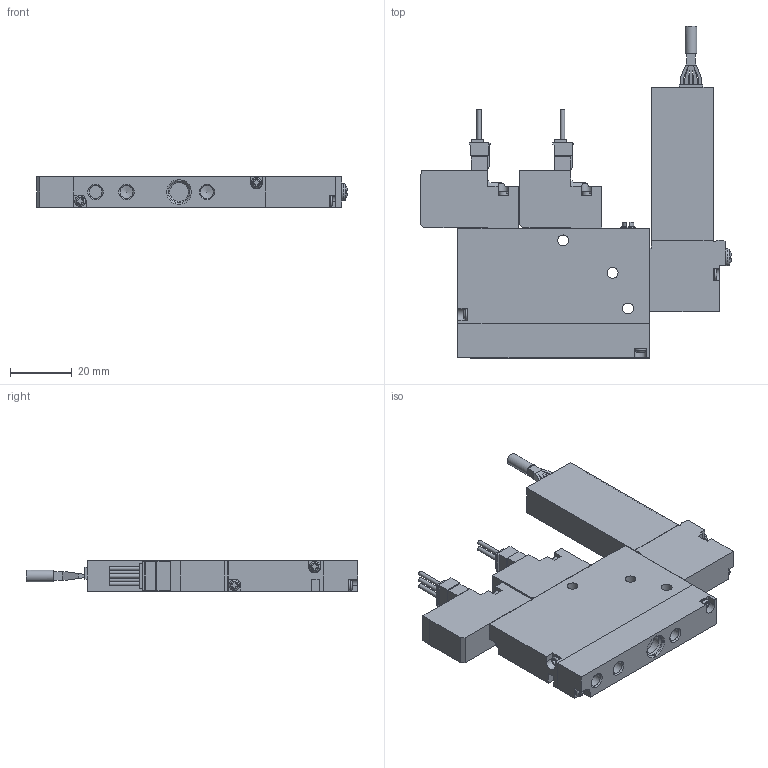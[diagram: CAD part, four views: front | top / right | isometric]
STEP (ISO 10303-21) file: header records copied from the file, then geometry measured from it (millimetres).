
FILE_DESCRIPTION(('STEP AP203'),'1');
FILE_NAME('BMPV42SV9.V9P5W.stp','2025-04-30T01:09:16',(' '),(' '),'Spatial InterOp 3D',' ',' ');
FILE_SCHEMA(('CONFIG_CONTROL_DESIGN'));
Length unit declared in the file: millimetre
Products named in the file (6): BMPV42SV9.V9P5W; VACUUM VALVE FUNCTION MPV42-W; VACUUM SENSOR MPV42-V9; VACUUM VALVE FUNCTION MPV42-A; UNIT-MPV42; MPV42-S10R-1
Assembly tree (5 placements, depth 2):
  BMPV42SV9.V9P5W
    VACUUM VALVE FUNCTION MPV42-W
    VACUUM SENSOR MPV42-V9
    VACUUM VALVE FUNCTION MPV42-A
    UNIT-MPV42
    MPV42-S10R-1
Bounding box: 100.35 x 107.3 x 10 mm (x, y, z)
Volume: 50675.1 mm3; surface area: 19755.4 mm2
Topology: 5 solids, 5 shells, 454 faces, 1205 edges, 790 vertices
Faces by surface type: plane 338, cylinder 88, cone 14, sphere 7, torus 7
Full cylindrical faces by diameter (mm): 1.4 x5, 1.8 x1, 2.2 x2, 3 x4, 3.5 x13, 3.8 x1, 4.134 x5, 5 x1, 5.5 x1, 6 x1, 7 x1
Entity records: 14110 total; most frequent: CARTESIAN_POINT 2743, ORIENTED_EDGE 2244, DIRECTION 2240, EDGE_CURVE 1122, LINE 848, VECTOR 848, VERTEX_POINT 769, AXIS2_PLACEMENT_3D 696
